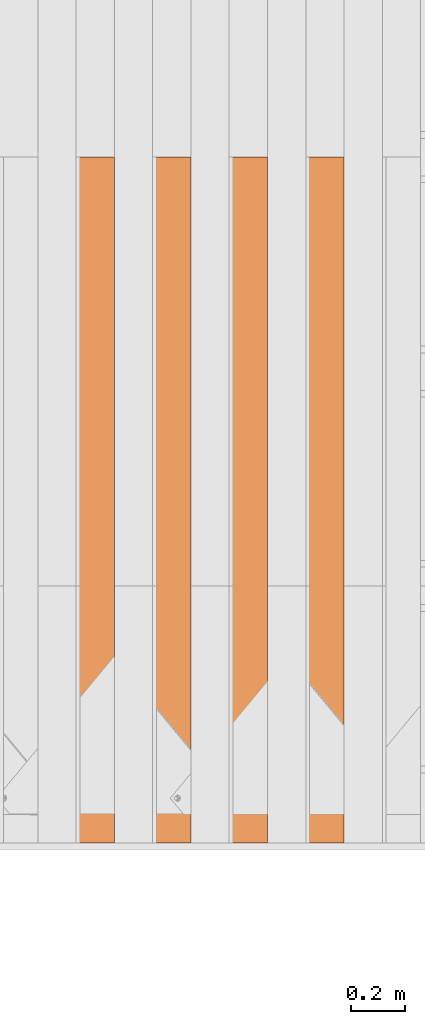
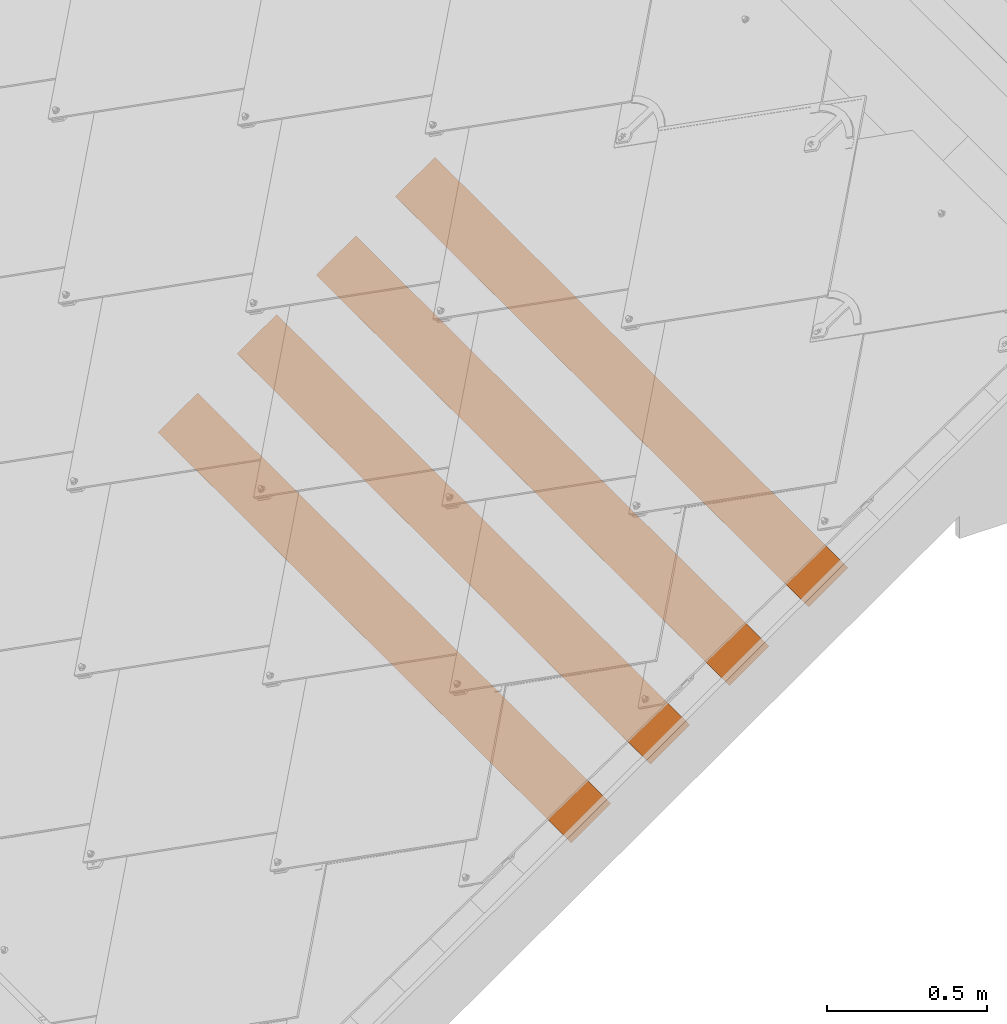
# One storey, part 12 of 151: 4 proxies, 1 element without a shape of its own.
"""IFC2X3 building model written with IfcOpenShell, lengths in millimetres."""

from ifc_helpers import new_model, entity, si_unit, converted_unit, derived_unit, direction, frame, frame_2d, origin, place, context, subcontext, project, spatial, rectangle, extrude, source, transform, mapped, material, type_object, type_shapes, element, aggregate, save


model = new_model("IFC2X3")

# Units and contexts
model_context = context("Model", 3, precision=0.01, world=origin(), true_north=direction((6.12303176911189e-17, 1.0)))
body_context = subcontext(model_context, "Body", "Model", "MODEL_VIEW")
ifc_project = project(units=[si_unit("LENGTHUNIT", "METRE", prefix="MILLI"), si_unit("AREAUNIT", "SQUARE_METRE"), si_unit("VOLUMEUNIT", "CUBIC_METRE"), converted_unit("PLANEANGLEUNIT", "DEGREE", entity("IfcRatioMeasure", 0.0174532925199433), si_unit("PLANEANGLEUNIT", "RADIAN"), dimensions=[0, 0, 0, 0, 0, 0, 0]), si_unit("MASSUNIT", "GRAM", prefix="KILO"), derived_unit("MASSDENSITYUNIT", [(si_unit("MASSUNIT", "GRAM", prefix="KILO"), 1), (si_unit("LENGTHUNIT", "METRE"), -3)]), si_unit("TIMEUNIT", "SECOND"), si_unit("FREQUENCYUNIT", "HERTZ"), si_unit("THERMODYNAMICTEMPERATUREUNIT", "DEGREE_CELSIUS"), derived_unit("THERMALTRANSMITTANCEUNIT", [(si_unit("MASSUNIT", "GRAM", prefix="KILO"), 1), (si_unit("THERMODYNAMICTEMPERATUREUNIT", "KELVIN"), -1), (si_unit("TIMEUNIT", "SECOND"), -3)]), derived_unit("VOLUMETRICFLOWRATEUNIT", [(si_unit("LENGTHUNIT", "METRE"), 3), (si_unit("TIMEUNIT", "SECOND"), -1)]), si_unit("ELECTRICCURRENTUNIT", "AMPERE"), si_unit("ELECTRICVOLTAGEUNIT", "VOLT"), si_unit("POWERUNIT", "WATT"), si_unit("FORCEUNIT", "NEWTON", prefix="KILO"), si_unit("ILLUMINANCEUNIT", "LUX"), si_unit("LUMINOUSFLUXUNIT", "LUMEN"), si_unit("LUMINOUSINTENSITYUNIT", "CANDELA"), derived_unit("USERDEFINED", [(si_unit("MASSUNIT", "GRAM", prefix="KILO"), -1), (si_unit("LENGTHUNIT", "METRE"), -2), (si_unit("TIMEUNIT", "SECOND"), 3), (si_unit("LUMINOUSFLUXUNIT", "LUMEN"), 1)]), derived_unit("LINEARVELOCITYUNIT", [(si_unit("LENGTHUNIT", "METRE"), 1), (si_unit("TIMEUNIT", "SECOND"), -1)]), si_unit("PRESSUREUNIT", "PASCAL"), derived_unit("USERDEFINED", [(si_unit("LENGTHUNIT", "METRE"), -2), (si_unit("MASSUNIT", "GRAM", prefix="KILO"), 1), (si_unit("TIMEUNIT", "SECOND"), -2)])], contexts=[model_context])

# Site, building, storey
site_placement = place(None, origin())
site = spatial("IfcSite", under=ifc_project, at=site_placement, Name="Default", CompositionType="ELEMENT")
building_placement = place(site_placement, origin())
building = spatial("IfcBuilding", under=site, at=building_placement, CompositionType="ELEMENT")
storey_placement = place(building_placement, origin())
storey = spatial("IfcBuildingStorey", under=building, at=storey_placement, Name="Level 1", CompositionType="ELEMENT", Elevation=0.0)

# Assembly, proxies
assembly_placement = place(storey_placement, origin())
assembly = element("IfcElementAssembly", 1, at=assembly_placement, inside=storey, Name="Structural Framing Assembly:Roof Construction Assembly", ObjectType="Structural Framing Assembly:Roof Construction Assembly", AssemblyPlace="NOTDEFINED", PredefinedType="USERDEFINED")
ifc_material = material(Name="Wood - Generic - Wood For Showcase")
building_element_proxy_type_1 = type_object("IfcBuildingElementProxyType", Name="Structural Framing 15", PredefinedType="NOTDEFINED", material=ifc_material)
shared_shape_1 = source(origin(), body_context, "Body", "SweptSolid", [
    extrude(rectangle(XDim=24.9999999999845, YDim=174.344679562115, at=frame_2d((-1.77635683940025e-13, -4.54747350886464e-13), x_axis=(0.0, 1.0))), frame((1128.20180147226, 1437.09519417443, 2760.23940055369), z_axis=(0.0, 1.0, 0.0), x_axis=(-0.819152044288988, 0.0, -0.573576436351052)), (0.0, 0.0, 1.0), 2558.4556079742),
])
type_shapes(building_element_proxy_type_1, [shared_shape_1])
proxy_1_placement = place(assembly_placement, frame((-1227.84533495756, -8140.0, -900.0)))
proxy_1 = element("IfcBuildingElementProxy", 2, at=proxy_1_placement, type_object=building_element_proxy_type_1, material=ifc_material, Name="Structural Framing 63:Structural Framing 15", ObjectType="Structural Framing 63:Structural Framing 15", context=body_context, shape_type="MappedRepresentation", body=[
    mapped(shared_shape_1, transform((0.0, 0.0, 0.0), scale=1.0)),
])
building_element_proxy_type_2 = type_object("IfcBuildingElementProxyType", Name="Structural Framing 15", PredefinedType="NOTDEFINED", material=ifc_material)
shared_shape_2 = source(origin(), body_context, "Body", "SweptSolid", [
    extrude(rectangle(XDim=24.9999999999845, YDim=174.344679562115, at=frame_2d((-1.77635683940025e-13, -4.54747350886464e-13), x_axis=(0.0, 1.0))), frame((1128.20180147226, 1437.09519417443, 2760.23940055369), z_axis=(0.0, 1.0, 0.0), x_axis=(-0.819152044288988, 0.0, -0.573576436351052)), (0.0, 0.0, 1.0), 2558.4556079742),
])
type_shapes(building_element_proxy_type_2, [shared_shape_2])
proxy_2_placement = place(assembly_placement, frame((-1513.47493630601, -8140.0, -1100.0)))
proxy_2 = element("IfcBuildingElementProxy", 3, at=proxy_2_placement, type_object=building_element_proxy_type_2, material=ifc_material, Name="Structural Framing 73:Structural Framing 15", ObjectType="Structural Framing 73:Structural Framing 15", context=body_context, shape_type="MappedRepresentation", body=[
    mapped(shared_shape_2, transform((0.0, 0.0, 0.0), scale=1.0)),
])
building_element_proxy_type_3 = type_object("IfcBuildingElementProxyType", Name="Structural Framing 15", PredefinedType="NOTDEFINED", material=ifc_material)
shared_shape_3 = source(origin(), body_context, "Body", "SweptSolid", [
    extrude(rectangle(XDim=24.9999999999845, YDim=174.344679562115, at=frame_2d((-1.77635683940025e-13, -4.54747350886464e-13), x_axis=(0.0, 1.0))), frame((1128.20180147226, 1437.09519417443, 2760.23940055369), z_axis=(0.0, 1.0, 0.0), x_axis=(-0.819152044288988, 0.0, -0.573576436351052)), (0.0, 0.0, 1.0), 2558.4556079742),
])
type_shapes(building_element_proxy_type_3, [shared_shape_3])
proxy_3_placement = place(assembly_placement, frame((-1799.10453765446, -8140.0, -1300.0)))
proxy_3 = element("IfcBuildingElementProxy", 4, at=proxy_3_placement, type_object=building_element_proxy_type_3, material=ifc_material, Name="Structural Framing 83:Structural Framing 15", ObjectType="Structural Framing 83:Structural Framing 15", context=body_context, shape_type="MappedRepresentation", body=[
    mapped(shared_shape_3, transform((0.0, 0.0, 0.0), scale=1.0)),
])
building_element_proxy_type_4 = type_object("IfcBuildingElementProxyType", Name="Structural Framing 15", PredefinedType="NOTDEFINED", material=ifc_material)
shared_shape_4 = source(origin(), body_context, "Body", "SweptSolid", [
    extrude(rectangle(XDim=24.9999999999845, YDim=174.344679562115, at=frame_2d((-1.77635683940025e-13, -4.54747350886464e-13), x_axis=(0.0, 1.0))), frame((1128.20180147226, 1437.09519417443, 2760.23940055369), z_axis=(0.0, 1.0, 0.0), x_axis=(-0.819152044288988, 0.0, -0.573576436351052)), (0.0, 0.0, 1.0), 2558.4556079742),
])
type_shapes(building_element_proxy_type_4, [shared_shape_4])
proxy_4_placement = place(assembly_placement, frame((-2084.73413900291, -8140.0, -1500.0)))
proxy_4 = element("IfcBuildingElementProxy", 5, at=proxy_4_placement, type_object=building_element_proxy_type_4, material=ifc_material, Name="Structural Framing 93:Structural Framing 15", ObjectType="Structural Framing 93:Structural Framing 15", context=body_context, shape_type="MappedRepresentation", body=[
    mapped(shared_shape_4, transform((0.0, 0.0, 0.0), scale=1.0)),
])
aggregate(assembly, [proxy_1, proxy_2, proxy_3, proxy_4])

save(model, "model.ifc")
